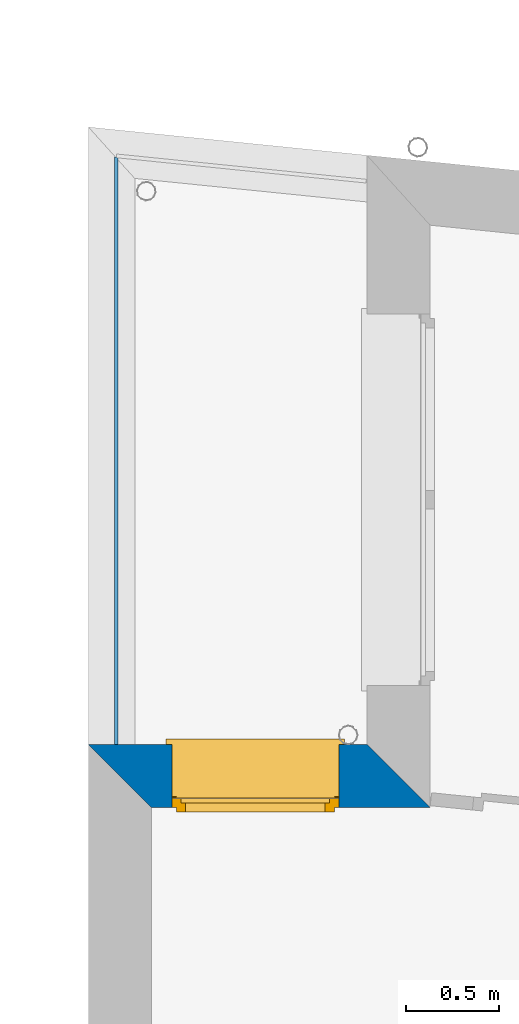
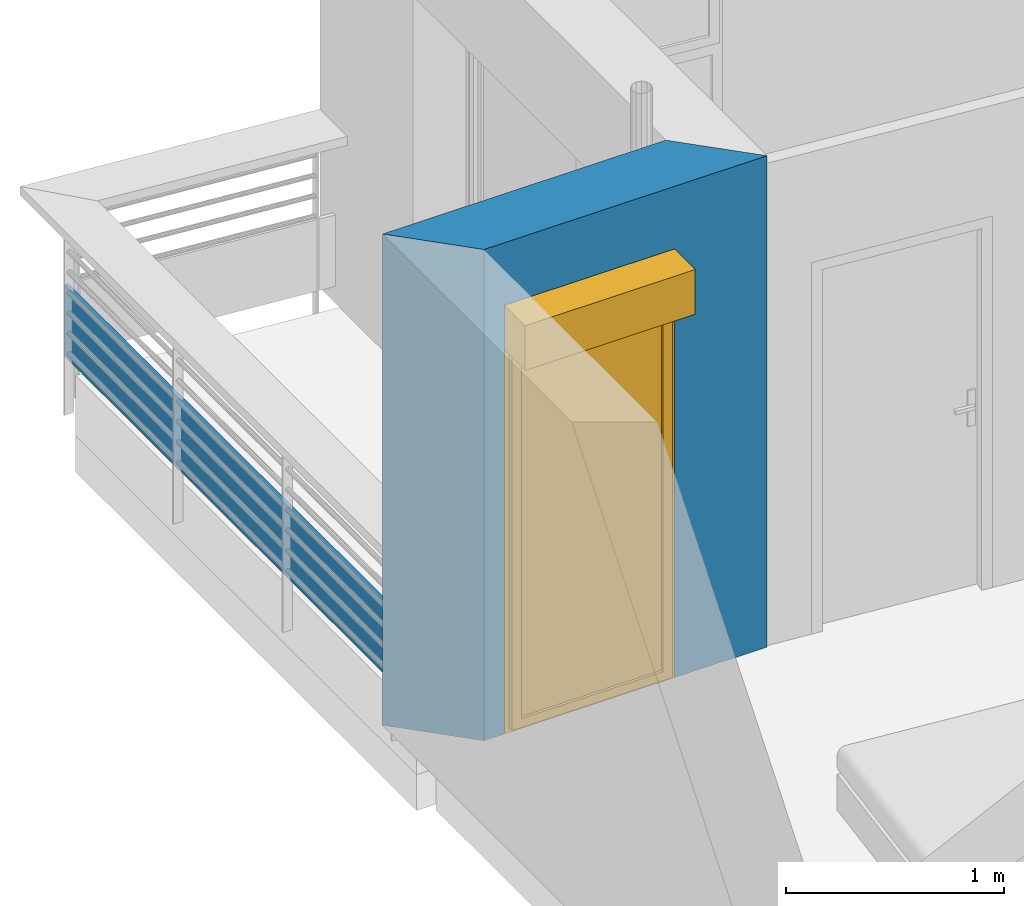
# One storey, part 67 of 171: 2 walls, 1 window, 1 opening.
"""IFC2X3 building model written with IfcOpenShell, lengths in millimetres."""

from ifc_helpers import new_model, entity, si_unit, converted_unit, derived_unit, money_unit, direction, frame, origin_with_axes, place, context, subcontext, project, spatial, polyline, outline, extrude, open_shell, faceted_brep, surface_model, source, transform, mapped, material, layer, layer_set, layer_usage, type_object, element, fill, save


model = new_model("IFC2X3")

# Units and contexts
model_context = context("Model", 3, precision=0.01, world=origin_with_axes(), true_north=direction((0.0, 1.0)))
body_context = subcontext(model_context, "Body", "Model", "MODEL_VIEW")
ifc_project = project(units=[si_unit("LENGTHUNIT", "METRE", prefix="MILLI"), si_unit("AREAUNIT", "SQUARE_METRE"), si_unit("VOLUMEUNIT", "CUBIC_METRE"), converted_unit("PLANEANGLEUNIT", "DEGREE", entity("IfcPlaneAngleMeasure", 0.0174532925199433), si_unit("PLANEANGLEUNIT", "RADIAN"), dimensions=[0, 0, 0, 0, 0, 0, 0]), money_unit("USD"), converted_unit("TIMEUNIT", "Year", entity("IfcTimeMeasure", 31557600.0), si_unit("TIMEUNIT", "SECOND"), dimensions=[0, 0, 1, 0, 0, 0, 0]), si_unit("MASSUNIT", "GRAM", prefix="KILO"), si_unit("THERMODYNAMICTEMPERATUREUNIT", "DEGREE_CELSIUS"), si_unit("LUMINOUSINTENSITYUNIT", "LUMEN"), si_unit("ENERGYUNIT", "JOULE", prefix="MEGA"), derived_unit("THERMALCONDUCTANCEUNIT", [(si_unit("POWERUNIT", "WATT"), 1), (si_unit("LENGTHUNIT", "METRE"), -1), (si_unit("THERMODYNAMICTEMPERATUREUNIT", "KELVIN"), -1)]), derived_unit("SPECIFICHEATCAPACITYUNIT", [(si_unit("ENERGYUNIT", "JOULE"), 1), (si_unit("MASSUNIT", "GRAM", prefix="KILO"), -1), (si_unit("THERMODYNAMICTEMPERATUREUNIT", "KELVIN"), -1)]), derived_unit("MASSDENSITYUNIT", [(si_unit("MASSUNIT", "GRAM", prefix="KILO"), 1), (si_unit("VOLUMEUNIT", "CUBIC_METRE"), -1)])], contexts=[model_context])

# Site, building, storey
site_placement = place(None, origin_with_axes())
site = spatial("IfcSite", under=ifc_project, at=site_placement, Name="Site", CompositionType="ELEMENT")
building_placement = place(site_placement, origin_with_axes())
building = spatial("IfcBuilding", under=site, at=building_placement, Name="Bâtiment", CompositionType="ELEMENT")
storey_placement = place(building_placement, frame((0.0, 0.0, 3000.0), z_axis=(0.0, 0.0, 1.0), x_axis=(1.0, 0.0, 0.0)))
storey = spatial("IfcBuildingStorey", under=building, at=storey_placement, Name="rdc", CompositionType="ELEMENT", Elevation=3000.0)

# Wall
ifc_material_1 = material(Name="MANQUANT")
ifc_layer_1 = layer(ifc_material_1, 20.0, ventilated="UNKNOWN")
ifc_layer_set_1 = layer_set([ifc_layer_1], Name="MANQUANT 20")
ifc_layer_usage_1 = layer_usage(ifc_layer_set_1, "AXIS2", "NEGATIVE", 20.0)
wall_type_1 = type_object("IfcWallType", Name="MANQUANT 20", PredefinedType="NOTDEFINED")
wall_1_placement = place(storey_placement, frame((2216794.996025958, -607167.3879007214, 100.0000000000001), z_axis=(0.0, 0.0, 1.0), x_axis=(1.32546800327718e-06, 0.9999999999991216, 0.0)))
element("IfcWallStandardCase", 1, at=wall_1_placement, inside=storey, type_object=wall_type_1, material=ifc_layer_usage_1, Name="Mur-152", context=body_context, shape_type="SweptSolid", body=[
    extrude(outline(polyline([(0.0, 0.0), (3161.905667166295, 0.0), (3161.905667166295, 19.99999999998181), (-2.650935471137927e-05, 19.99999999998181), (0.0, 0.0)])), origin_with_axes(), (0.0, 0.0, 1.0), 400.0),
])

# Wall, opening, window
ifc_material_2 = material(Name="Parpaing 312445824")
ifc_layer_2 = layer(ifc_material_2, 180.0, ventilated="UNKNOWN")
ifc_material_3 = material(Name="Isolant styromousse 301821074")
ifc_layer_3 = layer(ifc_material_3, 160.0, ventilated="UNKNOWN")
ifc_layer_set_2 = layer_set([ifc_layer_2, ifc_layer_3], Name="isol int 18+16 0018356637")
ifc_layer_usage_2 = layer_usage(ifc_layer_set_2, "AXIS2", "NEGATIVE", 0.0)
wall_type_2 = type_object("IfcWallType", Name="isol int 18+16 0018356637 340", PredefinedType="NOTDEFINED")
wall_2_placement = place(storey_placement, frame((2216634.233344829, -607167.3879007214, 0.0), z_axis=(0.0, 0.0, 1.0), x_axis=(1.0, 0.0, 0.0)))
wall_2 = element("IfcWallStandardCase", 2, at=wall_2_placement, inside=storey, type_object=wall_type_2, material=ifc_layer_usage_2, Name="Mur-142", context=body_context, shape_type="SweptSolid", body=[
    extrude(outline(polyline([(339.9999999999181, -340.0000000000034), (1840.000000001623, -340.0000000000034), (1500.000000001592, 0.0), (-1.13686837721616e-10, 0.0), (339.9999999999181, -340.0000000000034)])), origin_with_axes(), (0.0, 0.0, 1.0), 2750.0),
])
opening_placement = place(wall_2_placement, frame((899.1347451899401, 0.0, 0.0), z_axis=(0.0, 0.0, 1.0), x_axis=(1.0, 0.0, 0.0)))
opening = element("IfcOpeningElement", 3, at=opening_placement, cuts=wall_2, Name="Fen-207", context=body_context, shape_type="Brep", body=[
    faceted_brep([(-449.9999999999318, -280.0000000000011, 2150.0), (450.0000000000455, -280.0000000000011, 2150.0), (450.0000000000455, 0.9999999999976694, 2150.0), (-450.0000000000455, 0.9999999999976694, 2150.0), (-449.9999999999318, -280.0000000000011, 2400.0), (450.0000000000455, -280.0000000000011, 2400.0), (450.0000000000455, -290.0000000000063, 2150.0), (450.0000000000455, -290.0000000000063, 0.0), (450.0000000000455, 0.9999999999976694, 0.0), (-450.0000000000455, 0.9999999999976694, 0.0), (-449.9999999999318, -290.0000000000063, 2150.0), (-450.0000000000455, -290.0000000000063, 0.0), (-449.9999999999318, -341.0000000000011, 2150.0), (-449.9999999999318, -530.0000000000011, 2150.0), (-449.9999999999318, -530.0000000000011, 2400.0), (450.0000000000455, -530.0000000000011, 2400.0), (450.0000000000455, -530.0000000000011, 2150.0), (450.0000000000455, -341.0000000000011, 2150.0), (450.0000000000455, -341.0000000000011, 0.0), (-450.0000000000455, -341.0000000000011, 0.0)], [[[0, 1, 2, 3]], [[1, 0, 4, 5]], [[1, 6, 7, 8, 2]], [[2, 8, 9, 3]], [[10, 0, 3, 9, 11]], [[0, 10, 12, 13, 14, 4]], [[4, 14, 15, 5]], [[6, 1, 5, 15, 16, 17]], [[6, 17, 18, 7]], [[11, 9, 8, 7, 18, 19]], [[12, 10, 11, 19]], [[12, 17, 16, 13]], [[14, 13, 16, 15]], [[17, 12, 19, 18]]]),
])
window_style = type_object("IfcWindowStyle", Name="Fenêtre 27", ConstructionType="NOTDEFINED", OperationType="SINGLE_PANEL", ParameterTakesPrecedence=False, Sizeable=False)
shared_shape = source(origin_with_axes(), body_context, "Body", "SurfaceModel", [
    surface_model("IfcShellBasedSurfaceModel", [(450.0, -51.00000000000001, 40.00000000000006), (450.0, -51.00000000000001, 50.00000000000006), (-450.0, -51.00000000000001, 50.0), (-450.0, -51.00000000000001, 40.0), (480.0, -369.9999999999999, 28.96551724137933), (480.0, -339.9999999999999, 30.00324289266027), (450.0, -339.9999999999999, 30.00324289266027), (-450.0, -339.9999999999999, 30.00324289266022), (-480.0, -339.9999999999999, 30.00324289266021), (-480.0, -369.9999999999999, 28.96551724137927), (480.0, -369.9999999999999, 8.965517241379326), (-480.0, -369.9999999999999, 8.965517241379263), (480.0, -359.9999999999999, 18.96551724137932), (-480.0, -359.9999999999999, 18.96551724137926)], [open_shell([[[0, 1, 2, 3]], [[4, 5, 6, 0, 3, 7, 8, 9]], [[10, 4, 9, 11]], [[12, 10, 11, 13]]])]),
    faceted_brep([(-450.0, -59.99999999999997, 2400.0), (-447.0, -59.99999999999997, 2400.0), (-447.0, 190.0, 2400.0), (-450.0, 190.0, 2400.0), (-450.0, -59.99999999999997, 2150.0), (-447.0, -59.99999999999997, 2150.0), (-447.0, 190.0, 2150.0), (-450.0, 190.0, 2150.0)], [[[0, 1, 2, 3]], [[4, 5, 1, 0]], [[1, 5, 6, 2]], [[3, 2, 6, 7]], [[0, 3, 7, 4]], [[7, 6, 5, 4]]]),
    faceted_brep([(447.0, -59.99999999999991, 2400.0), (450.0, -59.99999999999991, 2400.0), (450.0, 190.0000000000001, 2400.0), (447.0, 190.0000000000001, 2400.0), (447.0, -59.99999999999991, 2150.0), (450.0, -59.99999999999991, 2150.0), (450.0, 190.0000000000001, 2150.0), (447.0, 190.0000000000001, 2150.0)], [[[0, 1, 2, 3]], [[4, 5, 1, 0]], [[1, 5, 6, 2]], [[3, 2, 6, 7]], [[0, 3, 7, 4]], [[7, 6, 5, 4]]]),
    faceted_brep([(-447.0, -59.99999999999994, 2150.0), (447.0, -59.99999999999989, 2150.0), (447.0, -59.99999999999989, 2400.0), (-447.0, -59.99999999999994, 2400.0), (-447.0, -56.99999999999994, 2150.0), (447.0, -56.99999999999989, 2150.0), (447.0, -56.99999999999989, 2397.0), (447.0, 187.0000000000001, 2397.0), (447.0, 187.0000000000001, 2153.0), (447.0, -37.99999999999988, 2153.0), (447.0, -37.99999999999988, 2150.0), (447.0, 190.0000000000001, 2150.0), (447.0, 190.0000000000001, 2400.0), (-447.0, 190.0000000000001, 2400.0), (-447.0, 190.0000000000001, 2150.0), (-447.0, -37.99999999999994, 2150.0), (-447.0, -37.99999999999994, 2153.0), (-447.0, 187.0000000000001, 2153.0), (-447.0, 187.0000000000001, 2397.0), (-447.0, -56.99999999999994, 2397.0)], [[[0, 1, 2, 3]], [[4, 5, 1, 0]], [[1, 5, 6, 7, 8, 9, 10, 11, 12, 2]], [[3, 2, 12, 13]], [[0, 3, 13, 14, 15, 16, 17, 18, 19, 4]], [[19, 6, 5, 4]], [[18, 7, 6, 19]], [[17, 8, 7, 18]], [[16, 9, 8, 17]], [[15, 10, 9, 16]], [[14, 11, 10, 15]], [[13, 12, 11, 14]]]),
    faceted_brep([(-444.0, -40.374429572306, 2256.419644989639), (-444.0, -41.99999999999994, 2275.0), (-444.0, -40.37442957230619, 2293.580355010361), (-444.0, -35.54711042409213, 2311.596155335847), (-444.0, -27.66471820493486, 2328.5), (-444.0, -16.96675541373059, 2343.77827423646), (-444.0, -3.778274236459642, 2356.96675541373), (-444.0, 11.50000000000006, 2367.664718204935), (-444.0, 28.4038446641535, 2375.547110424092), (-444.0, 46.4196449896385, 2380.374429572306), (-444.0, 65.00000000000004, 2382.0), (-444.0, 83.58035501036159, 2380.374429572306), (-444.0, 101.5961553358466, 2375.547110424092), (-444.0, 118.5, 2367.664718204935), (-444.0, 133.7782742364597, 2356.96675541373), (-444.0, 146.9667554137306, 2343.77827423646), (-444.0, 157.6647182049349, 2328.5), (-444.0, 165.5471104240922, 2311.596155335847), (-444.0, 170.3744295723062, 2293.580355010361), (-444.0, 172.0, 2275.0), (-444.0, 170.3744295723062, 2256.419644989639), (-444.0, 165.5471104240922, 2238.403844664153), (-444.0, 157.6647182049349, 2221.5), (-444.0, 146.9667554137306, 2206.22172576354), (-444.0, 133.7782742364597, 2193.033244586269), (-444.0, 118.5, 2182.335281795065), (-444.0, 101.5961553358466, 2174.452889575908), (-444.0, 83.5803550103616, 2169.625570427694), (-444.0, 65.00000000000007, 2168.0), (-444.0, 46.41964498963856, 2169.625570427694), (-444.0, 28.40384466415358, 2174.452889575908), (-444.0, 11.50000000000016, 2182.335281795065), (-444.0, -3.778274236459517, 2193.033244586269), (-444.0, -16.96675541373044, 2206.22172576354), (-444.0, -27.6647182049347, 2221.5), (-444.0, -35.54711042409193, 2238.403844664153), (444.0, -40.37442957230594, 2256.419644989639), (444.0, -41.99999999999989, 2275.0), (444.0, -40.37442957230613, 2293.580355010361), (444.0, -35.54711042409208, 2311.596155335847), (444.0, -27.66471820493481, 2328.5), (444.0, -16.96675541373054, 2343.77827423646), (444.0, -3.778274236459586, 2356.96675541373), (444.0, 11.50000000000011, 2367.664718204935), (444.0, 28.40384466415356, 2375.547110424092), (444.0, 46.41964498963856, 2380.374429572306), (444.0, 65.0000000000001, 2382.0), (444.0, 83.58035501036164, 2380.374429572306), (444.0, 101.5961553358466, 2375.547110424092), (444.0, 118.5000000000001, 2367.664718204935), (444.0, 133.7782742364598, 2356.96675541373), (444.0, 146.9667554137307, 2343.77827423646), (444.0, 157.664718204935, 2328.5), (444.0, 165.5471104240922, 2311.596155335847), (444.0, 170.3744295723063, 2293.580355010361), (444.0, 172.0, 2275.0), (444.0, 170.3744295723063, 2256.419644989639), (444.0, 165.5471104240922, 2238.403844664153), (444.0, 157.6647182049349, 2221.5), (444.0, 146.9667554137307, 2206.22172576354), (444.0, 133.7782742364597, 2193.033244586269), (444.0, 118.5000000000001, 2182.335281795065), (444.0, 101.5961553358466, 2174.452889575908), (444.0, 83.58035501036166, 2169.625570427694), (444.0, 65.00000000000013, 2168.0), (444.0, 46.41964498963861, 2169.625570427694), (444.0, 28.40384466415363, 2174.452889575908), (444.0, 11.50000000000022, 2182.335281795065), (444.0, -3.778274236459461, 2193.033244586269), (444.0, -16.96675541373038, 2206.22172576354), (444.0, -27.66471820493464, 2221.5), (444.0, -35.54711042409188, 2238.403844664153)], [[[0, 1, 2, 3, 4, 5, 6, 7, 8, 9, 10, 11, 12, 13, 14, 15, 16, 17, 18, 19, 20, 21, 22, 23, 24, 25, 26, 27, 28, 29, 30, 31, 32, 33, 34, 35]], [[0, 36, 37, 1]], [[1, 37, 38, 2]], [[2, 38, 39, 3]], [[3, 39, 40, 4]], [[4, 40, 41, 5]], [[5, 41, 42, 6]], [[6, 42, 43, 7]], [[7, 43, 44, 8]], [[8, 44, 45, 9]], [[9, 45, 46, 10]], [[10, 46, 47, 11]], [[11, 47, 48, 12]], [[12, 48, 49, 13]], [[13, 49, 50, 14]], [[14, 50, 51, 15]], [[15, 51, 52, 16]], [[16, 52, 53, 17]], [[17, 53, 54, 18]], [[18, 54, 55, 19]], [[19, 55, 56, 20]], [[20, 56, 57, 21]], [[21, 57, 58, 22]], [[22, 58, 59, 23]], [[23, 59, 60, 24]], [[24, 60, 61, 25]], [[25, 61, 62, 26]], [[26, 62, 63, 27]], [[27, 63, 64, 28]], [[28, 64, 65, 29]], [[29, 65, 66, 30]], [[30, 66, 67, 31]], [[31, 67, 68, 32]], [[32, 68, 69, 33]], [[33, 69, 70, 34]], [[34, 70, 71, 35]], [[35, 71, 36, 0]], [[36, 71, 70, 69, 68, 67, 66, 65, 64, 63, 62, 61, 60, 59, 58, 57, 56, 55, 54, 53, 52, 51, 50, 49, 48, 47, 46, 45, 44, 43, 42, 41, 40, 39, 38, 37]]]),
    faceted_brep([(450.0, -34.99999999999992, 30.0), (450.0, -34.99999999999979, 2150.0), (450.0, -59.99999999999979, 2150.0), (450.0, -59.99999999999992, 30.0), (425.0, -34.99999999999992, 30.0), (425.0, -34.99999999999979, 2150.0), (425.0, -37.99999999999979, 2150.0), (447.0, -37.99999999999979, 2150.0), (447.0, -56.99999999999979, 2150.0), (425.0, -56.99999999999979, 2150.0), (425.0, -59.99999999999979, 2150.0), (425.0, -59.99999999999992, 30.0), (425.0, -56.99999999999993, 30.0), (447.0, -56.99999999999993, 30.0), (447.0, -37.99999999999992, 30.0), (425.0, -37.99999999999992, 30.0)], [[[0, 1, 2, 3]], [[4, 5, 1, 0]], [[1, 5, 6, 7, 8, 9, 10, 2]], [[3, 2, 10, 11]], [[0, 3, 11, 12, 13, 14, 15, 4]], [[15, 6, 5, 4]], [[14, 7, 6, 15]], [[13, 8, 7, 14]], [[12, 9, 8, 13]], [[11, 10, 9, 12]]]),
    faceted_brep([(-450.0, -34.99999999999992, 30.0), (-450.0, -59.99999999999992, 30.0), (-450.0, -59.99999999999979, 2150.0), (-450.0, -34.99999999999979, 2150.0), (-425.0, -34.99999999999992, 30.0), (-425.0, -37.99999999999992, 30.0), (-447.0, -37.99999999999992, 30.0), (-447.0, -56.99999999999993, 30.0), (-425.0, -56.99999999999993, 30.0), (-425.0, -59.99999999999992, 30.0), (-425.0, -59.99999999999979, 2150.0), (-425.0, -56.99999999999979, 2150.0), (-447.0, -56.99999999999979, 2150.0), (-447.0, -37.99999999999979, 2150.0), (-425.0, -37.99999999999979, 2150.0), (-425.0, -34.99999999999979, 2150.0)], [[[0, 1, 2, 3]], [[0, 4, 5, 6, 7, 8, 9, 1]], [[1, 9, 10, 2]], [[3, 2, 10, 11, 12, 13, 14, 15]], [[4, 0, 3, 15]], [[5, 4, 15, 14]], [[6, 5, 14, 13]], [[7, 6, 13, 12]], [[8, 7, 12, 11]], [[9, 8, 11, 10]]]),
    faceted_brep([(447.0, -46.66666666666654, 2275.0), (447.0, -46.66666666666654, 2266.666666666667), (-447.0, -46.6666666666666, 2266.666666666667), (-447.0, -46.6666666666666, 2275.0), (447.0, -51.66666666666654, 2275.0), (447.0, -51.66666666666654, 2266.666666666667), (447.0, -49.99999999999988, 2250.0), (447.0, -44.99999999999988, 2250.0), (-447.0, -44.99999999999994, 2250.0), (-447.0, -49.99999999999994, 2250.0), (-447.0, -51.6666666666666, 2266.666666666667), (-447.0, -51.6666666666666, 2275.0)], [[[0, 1, 2, 3]], [[4, 5, 6, 7, 1, 0]], [[2, 1, 7, 8]], [[3, 2, 8, 9, 10, 11]], [[3, 11, 4, 0]], [[10, 5, 4, 11]], [[9, 6, 5, 10]], [[8, 7, 6, 9]]]),
    faceted_brep([(-447.0, -44.99999999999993, 2250.0), (447.0, -44.99999999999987, 2250.0), (447.0, -46.66666666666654, 2233.333333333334), (-447.0, -46.6666666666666, 2233.333333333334), (-447.0, -49.99999999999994, 2250.0), (447.0, -49.99999999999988, 2250.0), (447.0, -51.66666666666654, 2233.333333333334), (447.0, -51.66666666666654, 2216.666666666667), (447.0, -49.99999999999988, 2200.0), (447.0, -44.99999999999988, 2200.0), (447.0, -46.66666666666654, 2216.666666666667), (-447.0, -46.6666666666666, 2216.666666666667), (-447.0, -44.99999999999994, 2200.0), (-447.0, -49.99999999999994, 2200.0), (-447.0, -51.6666666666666, 2216.666666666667), (-447.0, -51.6666666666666, 2233.333333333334)], [[[0, 1, 2, 3]], [[4, 5, 1, 0]], [[1, 5, 6, 7, 8, 9, 10, 2]], [[3, 2, 10, 11]], [[0, 3, 11, 12, 13, 14, 15, 4]], [[15, 6, 5, 4]], [[14, 7, 6, 15]], [[13, 8, 7, 14]], [[12, 9, 8, 13]], [[11, 10, 9, 12]]]),
    faceted_brep([(-447.0, -44.99999999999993, 2200.0), (447.0, -44.99999999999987, 2200.0), (447.0, -46.66666666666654, 2183.333333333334), (-447.0, -46.6666666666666, 2183.333333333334), (-447.0, -49.99999999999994, 2200.0), (447.0, -49.99999999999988, 2200.0), (447.0, -51.66666666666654, 2183.333333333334), (447.0, -51.66666666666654, 2166.666666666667), (447.0, -49.99999999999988, 2150.000000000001), (447.0, -44.99999999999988, 2150.000000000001), (447.0, -46.66666666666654, 2166.666666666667), (-447.0, -46.6666666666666, 2166.666666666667), (-447.0, -44.99999999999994, 2150.000000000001), (-447.0, -49.99999999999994, 2150.000000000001), (-447.0, -51.6666666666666, 2166.666666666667), (-447.0, -51.6666666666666, 2183.333333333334)], [[[0, 1, 2, 3]], [[4, 5, 1, 0]], [[1, 5, 6, 7, 8, 9, 10, 2]], [[3, 2, 10, 11]], [[0, 3, 11, 12, 13, 14, 15, 4]], [[15, 6, 5, 4]], [[14, 7, 6, 15]], [[13, 8, 7, 14]], [[12, 9, 8, 13]], [[11, 10, 9, 12]]]),
    faceted_brep([(-425.0000000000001, 0.0, 2100.0), (-450.0, 0.0, 2100.0), (-450.0, -50.00000000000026, 2100.0), (-400.0, -50.00000000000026, 2100.0), (-400.0, -25.00000000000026, 2100.0), (-425.0000000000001, -25.00000000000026, 2100.0), (-425.0000000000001, 0.0, 50.00000000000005), (-450.0, 0.0, 50.00000000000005), (-450.0, -50.00000000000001, 50.00000000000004), (-400.0, -50.00000000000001, 50.00000000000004), (-400.0, -25.00000000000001, 50.00000000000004), (-425.0000000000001, -25.00000000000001, 50.00000000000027)], [[[0, 1, 2, 3, 4, 5]], [[6, 7, 1, 0]], [[1, 7, 8, 2]], [[2, 8, 9, 3]], [[4, 3, 9, 10]], [[10, 11, 5, 4]], [[5, 11, 6, 0]], [[11, 10, 9, 8, 7, 6]]]),
    faceted_brep([(400.0, -25.00000000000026, 2100.0), (400.0, -50.00000000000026, 2100.0), (450.0, -50.00000000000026, 2100.0), (450.0, 0.0, 2100.0), (425.0000000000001, 0.0, 2100.0), (425.0000000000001, -25.00000000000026, 2100.0), (400.0, -25.00000000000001, 50.00000000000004), (400.0, -50.00000000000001, 50.00000000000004), (450.0, -50.00000000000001, 50.00000000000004), (450.0, 0.0, 50.00000000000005), (425.0000000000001, 0.0, 50.00000000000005), (425.0000000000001, -25.00000000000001, 50.00000000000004)], [[[0, 1, 2, 3, 4, 5]], [[6, 7, 1, 0]], [[8, 2, 1, 7]], [[9, 3, 2, 8]], [[4, 3, 9, 10]], [[10, 11, 5, 4]], [[5, 11, 6, 0]], [[11, 10, 9, 8, 7, 6]]]),
    faceted_brep([(400.0, -25.00000000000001, 50.00000000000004), (400.0, -50.00000000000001, 50.00000000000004), (450.0, -50.00000000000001, 50.00000000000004), (450.0, 0.0, 50.00000000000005), (425.0000000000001, 0.0, 50.00000000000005), (425.0000000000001, -25.00000000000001, 50.00000000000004), (-400.0, -25.00000000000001, 50.00000000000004), (-400.0, -50.00000000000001, 50.00000000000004), (-450.0, -50.00000000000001, 50.00000000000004), (-450.0, -50.0, 0.0), (450.0, -50.0, 0.0), (450.0, 0.0, 0.0), (-425.0000000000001, 0.0, 24.99999999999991), (425.0000000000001, 0.0, 24.99999999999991), (-450.0, 0.0, 0.0), (-450.0, 0.0, 50.00000000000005), (-425.0000000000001, 0.0, 50.00000000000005), (425.0000000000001, -25.0, 24.99999999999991), (-425.0000000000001, -25.0, 24.99999999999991), (-425.0000000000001, -25.00000000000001, 50.00000000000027)], [[[0, 1, 2, 3, 4, 5]], [[6, 7, 1, 0]], [[8, 9, 10, 2, 1, 7]], [[11, 3, 2, 10]], [[12, 13, 4, 3, 11, 14, 15, 16]], [[13, 17, 5, 4]], [[5, 17, 18, 19, 6, 0]], [[19, 16, 15, 8, 7, 6]], [[15, 14, 9, 8]], [[14, 11, 10, 9]], [[12, 18, 17, 13]], [[19, 18, 12, 16]]]),
    faceted_brep([(-425.0000000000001, 0.0, 2100.0), (-450.0, 0.0, 2100.0), (-450.0, 0.0, 2150.0), (450.0, 0.0, 2150.0), (450.0, 0.0, 2100.0), (425.0000000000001, 0.0, 2100.0), (425.0000000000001, 0.0, 2125.0), (-425.0000000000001, 0.0, 2125.0), (-425.0000000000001, -25.00000000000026, 2100.0), (-400.0, -25.00000000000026, 2100.0), (-400.0, -50.00000000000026, 2100.0), (-450.0, -50.00000000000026, 2100.0), (-450.0, -50.00000000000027, 2150.0), (450.0, -50.00000000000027, 2150.0), (450.0, -50.00000000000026, 2100.0), (425.0000000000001, -25.00000000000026, 2100.0), (400.0, -50.00000000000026, 2100.0), (400.0, -25.00000000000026, 2100.0), (425.0000000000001, -25.00000000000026, 2125.0), (-425.0000000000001, -25.00000000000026, 2125.0)], [[[0, 1, 2, 3, 4, 5, 6, 7]], [[8, 9, 10, 11, 1, 0]], [[2, 1, 11, 12]], [[3, 2, 12, 13]], [[4, 3, 13, 14]], [[15, 5, 4, 14, 16, 17]], [[5, 15, 18, 6]], [[6, 18, 19, 7]], [[7, 19, 8, 0]], [[17, 9, 8, 19, 18, 15]], [[17, 16, 10, 9]], [[14, 13, 12, 11, 10, 16]]]),
    faceted_brep([(-375.0000000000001, -25.00000000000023, 2075.0), (-375.0000000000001, 24.99999999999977, 2075.0), (-425.0000000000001, 24.99999999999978, 2075.0), (-425.0000000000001, -25.00000000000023, 2075.0), (-375.0000000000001, -24.99999999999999, 75.00000000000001), (-375.0000000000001, 25.00000000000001, 75.00000000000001), (-425.0000000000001, 25.00000000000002, 75.00000000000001), (-425.0000000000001, -24.99999999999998, 75.00000000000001)], [[[0, 1, 2, 3]], [[4, 5, 1, 0]], [[1, 5, 6, 2]], [[3, 2, 6, 7]], [[0, 3, 7, 4]], [[7, 6, 5, 4]]]),
    faceted_brep([(375.0000000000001, -25.00000000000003, 75.00000000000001), (375.0000000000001, 24.99999999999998, 75.00000000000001), (425.0000000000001, 24.99999999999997, 75.00000000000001), (425.0000000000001, -25.00000000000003, 75.00000000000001), (375.0000000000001, -25.00000000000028, 2075.0), (375.0000000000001, 24.99999999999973, 2075.0), (425.0000000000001, 24.99999999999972, 2075.0), (425.0000000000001, -25.00000000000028, 2075.0)], [[[0, 1, 2, 3]], [[4, 5, 1, 0]], [[1, 5, 6, 2]], [[3, 2, 6, 7]], [[0, 3, 7, 4]], [[7, 6, 5, 4]]]),
    faceted_brep([(425.0000000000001, -25.00000000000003, 25.0), (425.0000000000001, 24.99999999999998, 25.00000000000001), (425.0000000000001, 24.99999999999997, 75.00000000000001), (425.0000000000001, -25.00000000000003, 75.00000000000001), (-425.0000000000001, -24.99999999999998, 25.0), (-425.0000000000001, 25.00000000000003, 25.00000000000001), (-425.0000000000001, 25.00000000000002, 75.00000000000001), (-375.0000000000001, 25.00000000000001, 75.00000000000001), (375.0000000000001, 24.99999999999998, 75.00000000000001), (375.0000000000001, -25.00000000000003, 75.00000000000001), (-375.0000000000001, -24.99999999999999, 75.00000000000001), (-425.0000000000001, -24.99999999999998, 75.00000000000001)], [[[0, 1, 2, 3]], [[4, 5, 1, 0]], [[1, 5, 6, 7, 8, 2]], [[3, 2, 8, 9]], [[0, 3, 9, 10, 11, 4]], [[11, 6, 5, 4]], [[10, 7, 6, 11]], [[9, 8, 7, 10]]]),
    faceted_brep([(-425.0000000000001, -25.00000000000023, 2125.0), (-425.0000000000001, 24.99999999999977, 2125.0), (-425.0000000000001, 24.99999999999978, 2075.0), (-425.0000000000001, -25.00000000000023, 2075.0), (425.0000000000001, -25.00000000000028, 2125.0), (425.0000000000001, 24.99999999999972, 2125.0), (425.0000000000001, 24.99999999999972, 2075.0), (375.0000000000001, 24.99999999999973, 2075.0), (-375.0000000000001, 24.99999999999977, 2075.0), (-375.0000000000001, -25.00000000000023, 2075.0), (375.0000000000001, -25.00000000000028, 2075.0), (425.0000000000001, -25.00000000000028, 2075.0)], [[[0, 1, 2, 3]], [[4, 5, 1, 0]], [[1, 5, 6, 7, 8, 2]], [[3, 2, 8, 9]], [[0, 3, 9, 10, 11, 4]], [[11, 6, 5, 4]], [[10, 7, 6, 11]], [[9, 8, 7, 10]]]),
    surface_model("IfcShellBasedSurfaceModel", [(-375.0000000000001, -10.00000000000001, 75.00000000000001), (375.0000000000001, -10.00000000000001, 75.00000000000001), (375.0000000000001, -10.00000000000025, 2075.0), (-375.0000000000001, -10.00000000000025, 2075.0)], [open_shell([[[0, 1, 2, 3]]])]),
    surface_model("IfcShellBasedSurfaceModel", [(-375.0000000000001, 9.999999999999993, 75.00000000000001), (-375.0000000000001, 9.99999999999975, 2075.0), (375.0000000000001, 9.99999999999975, 2075.0), (375.0000000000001, 9.999999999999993, 75.00000000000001)], [open_shell([[[0, 1, 2, 3]]])]),
])
window_placement = place(opening_placement, frame((449.9999999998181, 0.0, 0.0), z_axis=(0.0, 0.0, 1.0), x_axis=(-1.0, 0.0, 0.0)))
window = element("IfcWindow", 4, at=window_placement, inside=storey, type_object=window_style, Name="Fen-207", OverallHeight=2150.0, OverallWidth=900.0, context=body_context, shape_type="MappedRepresentation", body=[
    mapped(shared_shape, transform((450.0000000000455, 340.0000000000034, 0.0))),
])
fill(opening, window)

save(model, "model.ifc")
